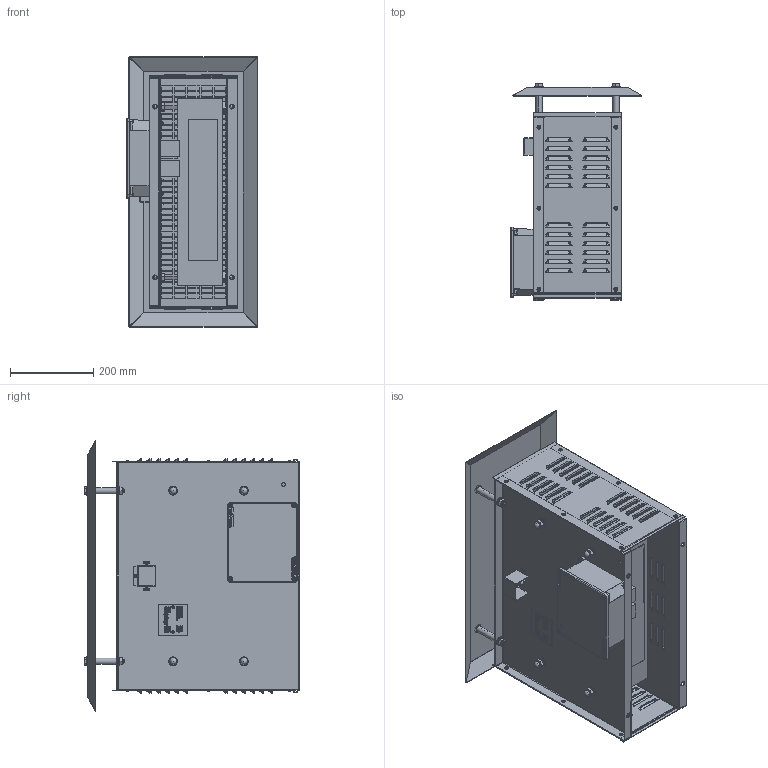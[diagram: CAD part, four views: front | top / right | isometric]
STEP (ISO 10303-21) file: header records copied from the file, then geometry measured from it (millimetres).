
FILE_DESCRIPTION(/* description */ (''),/* implementation_level */ '2;1');
FILE_NAME(/* name */ 'C:\_Vault\Dati\CATALOGO\RX\RX Catalogue New\RX 21S UL\RX 21s RMS 4 (A) -UL_Armatura_Esterna.stp',/* time_stamp */ '2022-03-23T10:03:44+01:00',/* author */ ('claudio'),/* organization */ ('Fairfild Srl'),/* preprocessor_version */ 'ST-DEVELOPER v18.1',/* originating_system */ 'Autodesk Inventor 2022',/* authorisation */ '');
FILE_SCHEMA (('AUTOMOTIVE_DESIGN { 1 0 10303 214 3 1 1 }'));
Products named in the file (1): RX 21s RMS 4 (A) -UL_Armatura_Esterna
Bounding box: 316.93 x 519.3 x 650 mm (x, y, z)
Volume: 12036093.8 mm3; surface area: 2713214.7 mm2
Topology: 1 solids, 49 shells, 6481 faces, 16739 edges, 10435 vertices
Faces by surface type: plane 4056, cylinder 1125, bspline 869, cone 374, sphere 31, torus 26
Full cylindrical faces by diameter (mm): 1.9 x2, 4 x1, 4.2 x6, 4.3 x1, 4.5 x3, 4.8 x12, 5 x8, 5.3 x4, 5.5 x4, 6 x24, 6.88 x4, 8.2 x1, 8.376 x8, 9 x4, 10 x8, 10.5 x8, 11 x16, 14.5 x1, 15 x8, 16 x9, 21 x19
Entity records: 211047 total; most frequent: CARTESIAN_POINT 50297, ORIENTED_EDGE 33398, DIRECTION 29108, EDGE_CURVE 16699, LINE 11708, VECTOR 11708, VERTEX_POINT 10435, AXIS2_PLACEMENT_3D 8700
